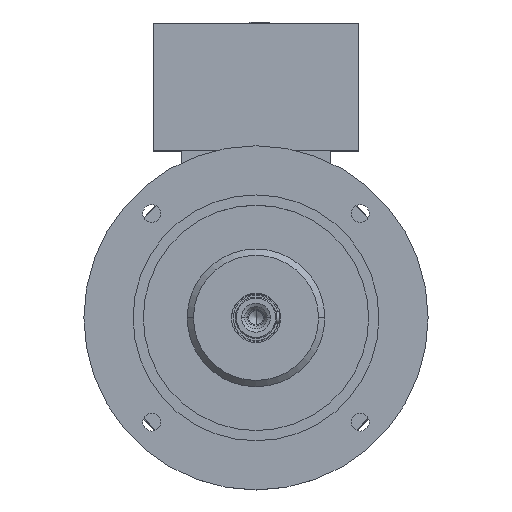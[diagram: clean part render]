
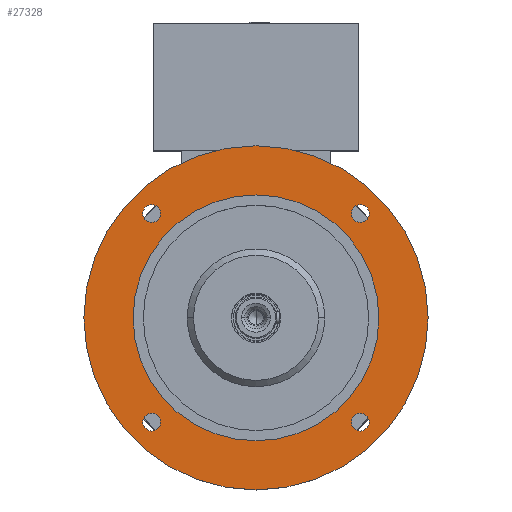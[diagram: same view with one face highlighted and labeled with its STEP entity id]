
A CAD part, top view. The second image highlights one B-rep face of the part: STEP entity #27328.
In plain terms, the highlighted planar face has unit normal (0, 0, 1).
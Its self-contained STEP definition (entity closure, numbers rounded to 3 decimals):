
#150 = DIRECTION ( 'NONE',  ( 0., 0., -1. ) ) ;
#371 = EDGE_LOOP ( 'NONE', ( #7140, #4097 ) ) ;
#525 = ORIENTED_EDGE ( 'NONE', *, *, #20788, .T. ) ;
#771 = CIRCLE ( 'NONE', #16950, 9. ) ;
#933 = DIRECTION ( 'NONE',  ( 0., 0., -1. ) ) ;
#1060 = CIRCLE ( 'NONE', #31739, 9. ) ;
#1418 = CIRCLE ( 'NONE', #27266, 125. ) ;
#1542 = EDGE_CURVE ( 'NONE', #5952, #2839, #22002, .T. ) ;
#2104 = VERTEX_POINT ( 'NONE', #29323 ) ;
#2312 = VERTEX_POINT ( 'NONE', #5017 ) ;
#2430 = DIRECTION ( 'NONE',  ( 0., 0., 1. ) ) ;
#2461 = EDGE_CURVE ( 'NONE', #16130, #2104, #10415, .T. ) ;
#2599 = CARTESIAN_POINT ( 'NONE',  ( -106.066, 106.066, 235. ) ) ;
#2625 = EDGE_CURVE ( 'NONE', #28263, #32221, #12094, .T. ) ;
#2839 = VERTEX_POINT ( 'NONE', #13373 ) ;
#3168 = AXIS2_PLACEMENT_3D ( 'NONE', #26295, #23741, #31487 ) ;
#3174 = CARTESIAN_POINT ( 'NONE',  ( 0., 125., 235. ) ) ;
#3516 = FACE_BOUND ( 'NONE', #11576, .T. ) ;
#3967 = VERTEX_POINT ( 'NONE', #26818 ) ;
#4097 = ORIENTED_EDGE ( 'NONE', *, *, #6945, .T. ) ;
#4572 = DIRECTION ( 'NONE',  ( 0., 0., -1. ) ) ;
#4692 = DIRECTION ( 'NONE',  ( 0., 0., -1. ) ) ;
#4734 = CARTESIAN_POINT ( 'NONE',  ( 0., -175., 235. ) ) ;
#5017 = CARTESIAN_POINT ( 'NONE',  ( -106.066, 97.066, 235. ) ) ;
#5952 = VERTEX_POINT ( 'NONE', #4734 ) ;
#6409 = VERTEX_POINT ( 'NONE', #29737 ) ;
#6459 = CARTESIAN_POINT ( 'NONE',  ( 106.066, -115.066, 235. ) ) ;
#6945 = EDGE_CURVE ( 'NONE', #15555, #25953, #13146, .T. ) ;
#7140 = ORIENTED_EDGE ( 'NONE', *, *, #9137, .T. ) ;
#7155 = DIRECTION ( 'NONE',  ( 0., 1., 0. ) ) ;
#7456 = DIRECTION ( 'NONE',  ( 0., -1., 0. ) ) ;
#7920 = CARTESIAN_POINT ( 'NONE',  ( 0., -125., 235. ) ) ;
#8051 = PLANE ( 'NONE',  #3168 ) ;
#8135 = DIRECTION ( 'NONE',  ( 0., 0., -1. ) ) ;
#8274 = ORIENTED_EDGE ( 'NONE', *, *, #27519, .T. ) ;
#8641 = CARTESIAN_POINT ( 'NONE',  ( -106.066, -106.066, 235. ) ) ;
#9137 = EDGE_CURVE ( 'NONE', #25953, #15555, #1418, .T. ) ;
#9205 = CARTESIAN_POINT ( 'NONE',  ( 0., 0., 235. ) ) ;
#10122 = ORIENTED_EDGE ( 'NONE', *, *, #2461, .T. ) ;
#10405 = ORIENTED_EDGE ( 'NONE', *, *, #2625, .T. ) ;
#10415 = CIRCLE ( 'NONE', #25521, 9. ) ;
#10534 = EDGE_LOOP ( 'NONE', ( #8274, #18409 ) ) ;
#10668 = CARTESIAN_POINT ( 'NONE',  ( -106.066, -115.066, 235. ) ) ;
#10743 = DIRECTION ( 'NONE',  ( 0., 0., -1. ) ) ;
#10745 = FACE_BOUND ( 'NONE', #371, .T. ) ;
#11080 = EDGE_LOOP ( 'NONE', ( #27247, #22031 ) ) ;
#11205 = AXIS2_PLACEMENT_3D ( 'NONE', #2599, #8135, #26209 ) ;
#11576 = EDGE_LOOP ( 'NONE', ( #14761, #27385 ) ) ;
#12094 = CIRCLE ( 'NONE', #27147, 9. ) ;
#12328 = ORIENTED_EDGE ( 'NONE', *, *, #12350, .T. ) ;
#12350 = EDGE_CURVE ( 'NONE', #32221, #28263, #18896, .T. ) ;
#12913 = CIRCLE ( 'NONE', #30656, 9. ) ;
#12961 = AXIS2_PLACEMENT_3D ( 'NONE', #25356, #2430, #7155 ) ;
#13146 = CIRCLE ( 'NONE', #29250, 125. ) ;
#13373 = CARTESIAN_POINT ( 'NONE',  ( 0., 175., 235. ) ) ;
#13646 = FACE_BOUND ( 'NONE', #32883, .T. ) ;
#14761 = ORIENTED_EDGE ( 'NONE', *, *, #17088, .T. ) ;
#15016 = DIRECTION ( 'NONE',  ( 0., 0., -1. ) ) ;
#15060 = CARTESIAN_POINT ( 'NONE',  ( 106.066, -106.066, 235. ) ) ;
#15555 = VERTEX_POINT ( 'NONE', #7920 ) ;
#15941 = CARTESIAN_POINT ( 'NONE',  ( 106.066, 97.066, 235. ) ) ;
#15987 = DIRECTION ( 'NONE',  ( 0., -1., 0. ) ) ;
#16034 = DIRECTION ( 'NONE',  ( 0., -1., 0. ) ) ;
#16113 = AXIS2_PLACEMENT_3D ( 'NONE', #26669, #29151, #26170 ) ;
#16130 = VERTEX_POINT ( 'NONE', #15941 ) ;
#16878 = DIRECTION ( 'NONE',  ( 0., -1., 0. ) ) ;
#16950 = AXIS2_PLACEMENT_3D ( 'NONE', #24024, #933, #21484 ) ;
#17088 = EDGE_CURVE ( 'NONE', #28925, #6409, #33168, .T. ) ;
#17197 = DIRECTION ( 'NONE',  ( 0., 0., -1. ) ) ;
#17271 = CARTESIAN_POINT ( 'NONE',  ( 106.066, -106.066, 235. ) ) ;
#18409 = ORIENTED_EDGE ( 'NONE', *, *, #24080, .T. ) ;
#18896 = CIRCLE ( 'NONE', #32345, 9. ) ;
#18977 = DIRECTION ( 'NONE',  ( 0., 0., -1. ) ) ;
#20788 = EDGE_CURVE ( 'NONE', #2104, #16130, #1060, .T. ) ;
#20986 = EDGE_CURVE ( 'NONE', #6409, #28925, #12913, .T. ) ;
#21427 = EDGE_CURVE ( 'NONE', #2839, #5952, #26938, .T. ) ;
#21484 = DIRECTION ( 'NONE',  ( 0., -1., 0. ) ) ;
#22002 = CIRCLE ( 'NONE', #16113, 175. ) ;
#22012 = FACE_OUTER_BOUND ( 'NONE', #11080, .T. ) ;
#22031 = ORIENTED_EDGE ( 'NONE', *, *, #1542, .T. ) ;
#22729 = DIRECTION ( 'NONE',  ( 0., -1., 0. ) ) ;
#22775 = DIRECTION ( 'NONE',  ( 0., -1., 0. ) ) ;
#23741 = DIRECTION ( 'NONE',  ( 0., 0., 1. ) ) ;
#24024 = CARTESIAN_POINT ( 'NONE',  ( -106.066, 106.066, 235. ) ) ;
#24080 = EDGE_CURVE ( 'NONE', #3967, #2312, #771, .T. ) ;
#24107 = CIRCLE ( 'NONE', #11205, 9. ) ;
#24410 = EDGE_LOOP ( 'NONE', ( #10122, #525 ) ) ;
#24710 = FACE_BOUND ( 'NONE', #10534, .T. ) ;
#25356 = CARTESIAN_POINT ( 'NONE',  ( 0., 0., 235. ) ) ;
#25521 = AXIS2_PLACEMENT_3D ( 'NONE', #32481, #15016, #22729 ) ;
#25953 = VERTEX_POINT ( 'NONE', #3174 ) ;
#26170 = DIRECTION ( 'NONE',  ( 0., 1., 0. ) ) ;
#26209 = DIRECTION ( 'NONE',  ( 0., -1., 0. ) ) ;
#26295 = CARTESIAN_POINT ( 'NONE',  ( 0., 175., 235. ) ) ;
#26610 = FACE_BOUND ( 'NONE', #24410, .T. ) ;
#26669 = CARTESIAN_POINT ( 'NONE',  ( 0., 0., 235. ) ) ;
#26818 = CARTESIAN_POINT ( 'NONE',  ( -106.066, 115.066, 235. ) ) ;
#26938 = CIRCLE ( 'NONE', #12961, 175. ) ;
#27147 = AXIS2_PLACEMENT_3D ( 'NONE', #17271, #4572, #7456 ) ;
#27247 = ORIENTED_EDGE ( 'NONE', *, *, #21427, .T. ) ;
#27266 = AXIS2_PLACEMENT_3D ( 'NONE', #9205, #17197, #27947 ) ;
#27328 = ADVANCED_FACE ( 'NONE', ( #3516, #24710, #26610, #13646, #10745, #22012 ), #8051, .T. ) ;
#27385 = ORIENTED_EDGE ( 'NONE', *, *, #20986, .T. ) ;
#27519 = EDGE_CURVE ( 'NONE', #2312, #3967, #24107, .T. ) ;
#27566 = CARTESIAN_POINT ( 'NONE',  ( 106.066, -97.066, 235. ) ) ;
#27947 = DIRECTION ( 'NONE',  ( 0., 1., 0. ) ) ;
#28263 = VERTEX_POINT ( 'NONE', #6459 ) ;
#28785 = DIRECTION ( 'NONE',  ( 0., 1., 0. ) ) ;
#28925 = VERTEX_POINT ( 'NONE', #10668 ) ;
#29151 = DIRECTION ( 'NONE',  ( 0., 0., 1. ) ) ;
#29250 = AXIS2_PLACEMENT_3D ( 'NONE', #30990, #10743, #28785 ) ;
#29323 = CARTESIAN_POINT ( 'NONE',  ( 106.066, 115.066, 235. ) ) ;
#29737 = CARTESIAN_POINT ( 'NONE',  ( -106.066, -97.066, 235. ) ) ;
#29808 = CARTESIAN_POINT ( 'NONE',  ( 106.066, 106.066, 235. ) ) ;
#29924 = AXIS2_PLACEMENT_3D ( 'NONE', #8641, #18977, #15987 ) ;
#30656 = AXIS2_PLACEMENT_3D ( 'NONE', #30988, #4692, #16034 ) ;
#30988 = CARTESIAN_POINT ( 'NONE',  ( -106.066, -106.066, 235. ) ) ;
#30990 = CARTESIAN_POINT ( 'NONE',  ( 0., 0., 235. ) ) ;
#31487 = DIRECTION ( 'NONE',  ( 0., -1., 0. ) ) ;
#31739 = AXIS2_PLACEMENT_3D ( 'NONE', #29808, #32352, #16878 ) ;
#32221 = VERTEX_POINT ( 'NONE', #27566 ) ;
#32345 = AXIS2_PLACEMENT_3D ( 'NONE', #15060, #150, #22775 ) ;
#32352 = DIRECTION ( 'NONE',  ( 0., 0., -1. ) ) ;
#32481 = CARTESIAN_POINT ( 'NONE',  ( 106.066, 106.066, 235. ) ) ;
#32883 = EDGE_LOOP ( 'NONE', ( #10405, #12328 ) ) ;
#33168 = CIRCLE ( 'NONE', #29924, 9. ) ;
